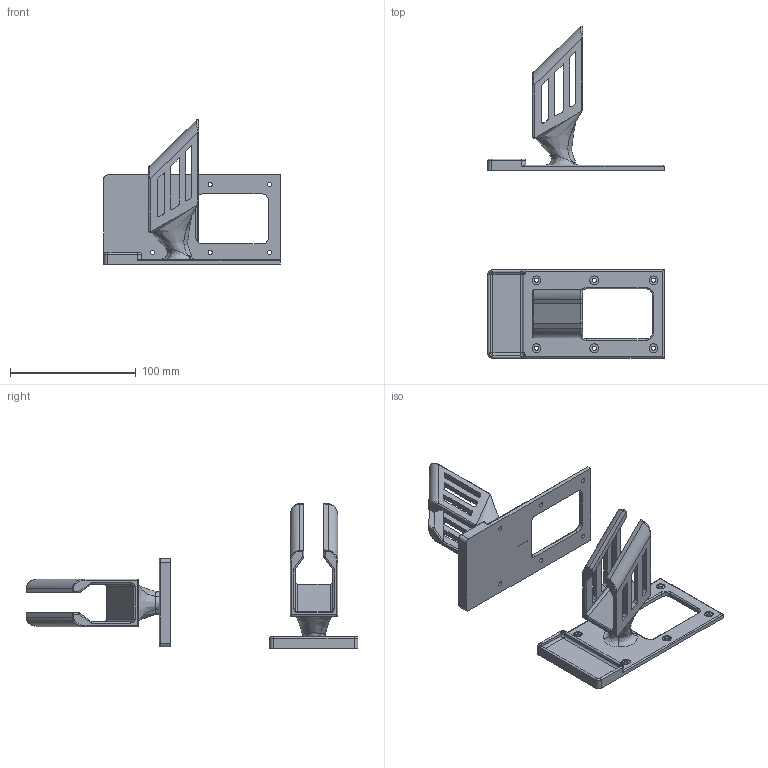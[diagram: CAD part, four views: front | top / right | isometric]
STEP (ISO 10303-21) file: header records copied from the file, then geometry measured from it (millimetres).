
FILE_DESCRIPTION(/* description */ (''),/* implementation_level */ '2;1');
FILE_NAME(/* name */ 'C:/Users/tomyk/OneDrive/デスクトップ/Glue Gun Stand v5.step',/* time_stamp */ '2021-03-03T21:34:32+09:00',/* author */ (''),/* organization */ (''),/* preprocessor_version */ 'ST-DEVELOPER v18.1',/* originating_system */ 'Autodesk Translation Framework v9.10.0.1330',/* authorisation */ '');
FILE_SCHEMA (('AUTOMOTIVE_DESIGN { 1 0 10303 214 3 1 1 }'));
Length unit declared in the file: millimetre
Products named in the file (1): Glue Gun Stand
Bounding box: 140 x 263.79 x 114.79 mm (x, y, z)
Volume: 145874.7 mm3; surface area: 68723.6 mm2
Topology: 2 solids, 2 shells, 362 faces, 920 edges, 576 vertices
Faces by surface type: cylinder 158, plane 136, bspline 36, torus 24, sphere 8
Full cylindrical faces by diameter (mm): 3.4 x12, 7 x12
Entity records: 12569 total; most frequent: CARTESIAN_POINT 3617, DIRECTION 1882, ORIENTED_EDGE 1840, EDGE_CURVE 920, AXIS2_PLACEMENT_3D 695, VERTEX_POINT 576, LINE 492, VECTOR 492
